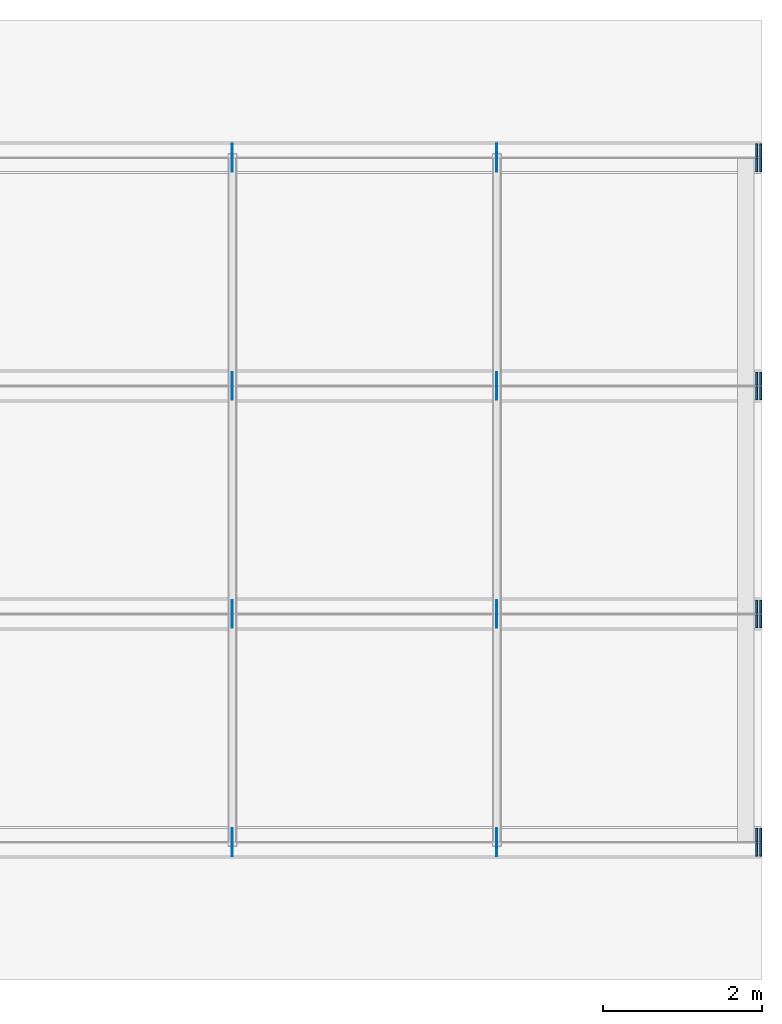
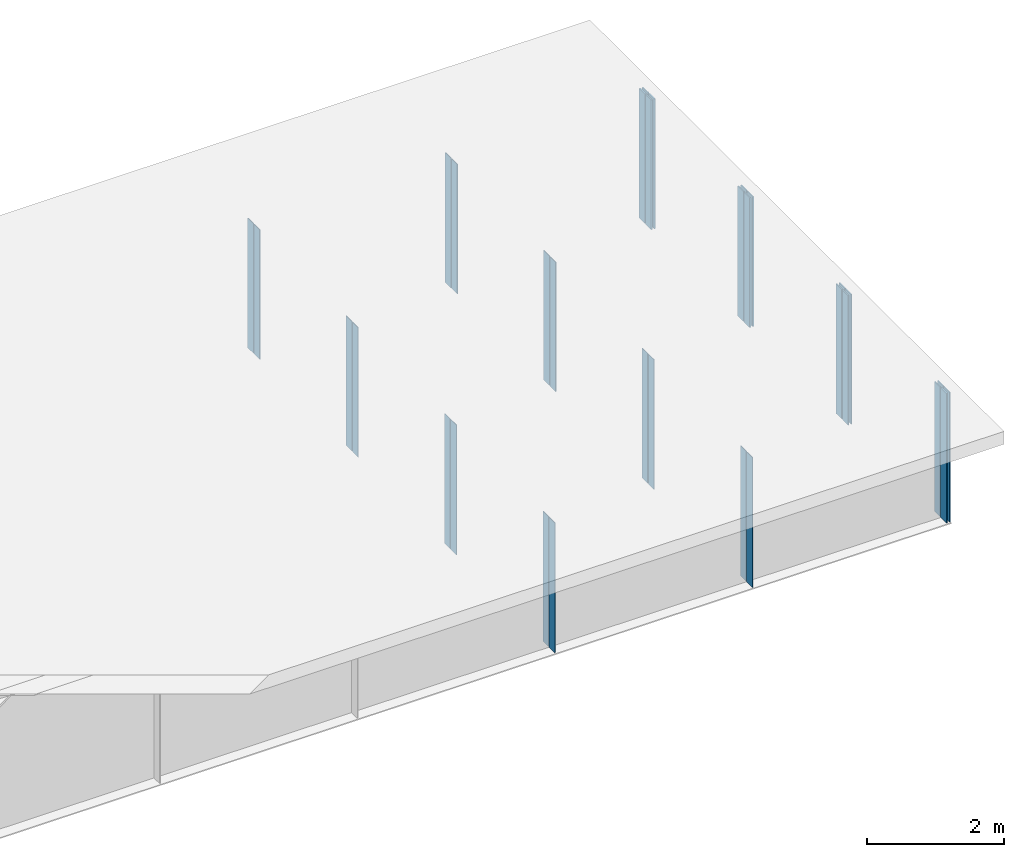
# One storey, part 15 of 15: 32 plates.
"""IFC4 building model written with IfcOpenShell, lengths in metres."""

from ifc_helpers import new_model, si_unit, frame, origin, origin_with_axes, origin_2d_with_axis, place, context, subcontext, project, spatial, rectangle, extrude, element, save


model = new_model("IFC4")

# Units and contexts
model_context = context("Model", 3, precision=1e-05, world=origin())
body_context = subcontext(model_context, "Body", "Model", "MODEL_VIEW")
ifc_project = project(units=[si_unit("LENGTHUNIT", "METRE"), si_unit("AREAUNIT", "SQUARE_METRE"), si_unit("VOLUMEUNIT", "CUBIC_METRE"), si_unit("PLANEANGLEUNIT", "RADIAN")], contexts=[model_context])

# Site, building, storey
site_placement = place(None, origin_with_axes())
site = spatial("IfcSite", under=ifc_project, at=site_placement, Name="Default Site")
building_placement = place(site_placement, origin_with_axes())
building = spatial("IfcBuilding", under=site, at=building_placement, Name="Bridge Structure")
storey_placement = place(building_placement, origin_with_axes())
storey = spatial("IfcBuildingStorey", under=building, at=storey_placement, Name="Superstructure")

# Plates
for number, where, z_axis, x_axis, name in (
    (1, (33.33, -4.221, -1.157), (0.0, 0.0, 1.0), (1.0, 0.0, 0.0), "Intermediate Stiffener 1"),
    (2, (33.33, -4.404, -1.157), (0.0, 0.0, 1.0), (1.0, 0.0, 0.0), "Intermediate Stiffener 1"),
    (3, (36.663000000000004, -4.221, -1.157), (0.0, 0.0, 1.0), (1.0, 0.0, 0.0), "Intermediate Stiffener 1"),
    (4, (36.663000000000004, -4.404, -1.157), (0.0, 0.0, 1.0), (1.0, 0.0, 0.0), "Intermediate Stiffener 1"),
):
    element("IfcPlate", number, at=place(storey_placement, frame(where, z_axis=z_axis, x_axis=x_axis)), inside=storey, Name=name, context=body_context, shape_type="SweptSolid", body=[
        extrude(rectangle(XDim=0.012, YDim=0.167, at=origin_2d_with_axis()), origin_with_axes(), (0.0, 0.0, 1.0), 2.314),
    ])
for number, where, z_axis, x_axis, name in (
    (5, (39.99, -4.221, -1.157), (0.0, 0.0, 1.0), (1.0, 0.0, 0.0), "End Stiffener 1"),
    (6, (39.99, -4.404, -1.157), (0.0, 0.0, 1.0), (1.0, 0.0, 0.0), "End Stiffener 1"),
    (7, (39.94, -4.221, -1.157), (0.0, 0.0, 1.0), (1.0, 0.0, 0.0), "End Stiffener 1"),
    (8, (39.94, -4.404, -1.157), (0.0, 0.0, 1.0), (1.0, 0.0, 0.0), "End Stiffener 1"),
):
    element("IfcPlate", number, at=place(storey_placement, frame(where, z_axis=z_axis, x_axis=x_axis)), inside=storey, Name=name, context=body_context, shape_type="SweptSolid", body=[
        extrude(rectangle(XDim=0.02, YDim=0.167, at=origin_2d_with_axis()), origin_with_axes(), (0.0, 0.0, 1.0), 2.314),
    ])
for number, where, z_axis, x_axis, name in (
    (9, (33.33, -1.346, -1.157), (0.0, 0.0, 1.0), (1.0, 0.0, 0.0), "Intermediate Stiffener 2"),
    (10, (33.33, -1.5290000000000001, -1.157), (0.0, 0.0, 1.0), (1.0, 0.0, 0.0), "Intermediate Stiffener 2"),
    (11, (36.663000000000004, -1.346, -1.157), (0.0, 0.0, 1.0), (1.0, 0.0, 0.0), "Intermediate Stiffener 2"),
    (12, (36.663000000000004, -1.5290000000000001, -1.157), (0.0, 0.0, 1.0), (1.0, 0.0, 0.0), "Intermediate Stiffener 2"),
):
    element("IfcPlate", number, at=place(storey_placement, frame(where, z_axis=z_axis, x_axis=x_axis)), inside=storey, Name=name, context=body_context, shape_type="SweptSolid", body=[
        extrude(rectangle(XDim=0.012, YDim=0.167, at=origin_2d_with_axis()), origin_with_axes(), (0.0, 0.0, 1.0), 2.314),
    ])
for number, where, z_axis, x_axis, name in (
    (13, (39.99, -1.346, -1.157), (0.0, 0.0, 1.0), (1.0, 0.0, 0.0), "End Stiffener 2"),
    (14, (39.99, -1.5290000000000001, -1.157), (0.0, 0.0, 1.0), (1.0, 0.0, 0.0), "End Stiffener 2"),
    (15, (39.94, -1.346, -1.157), (0.0, 0.0, 1.0), (1.0, 0.0, 0.0), "End Stiffener 2"),
    (16, (39.94, -1.5290000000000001, -1.157), (0.0, 0.0, 1.0), (1.0, 0.0, 0.0), "End Stiffener 2"),
):
    element("IfcPlate", number, at=place(storey_placement, frame(where, z_axis=z_axis, x_axis=x_axis)), inside=storey, Name=name, context=body_context, shape_type="SweptSolid", body=[
        extrude(rectangle(XDim=0.02, YDim=0.167, at=origin_2d_with_axis()), origin_with_axes(), (0.0, 0.0, 1.0), 2.314),
    ])
for number, where, z_axis, x_axis, name in (
    (17, (33.33, 1.5290000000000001, -1.157), (0.0, 0.0, 1.0), (1.0, 0.0, 0.0), "Intermediate Stiffener 3"),
    (18, (33.33, 1.346, -1.157), (0.0, 0.0, 1.0), (1.0, 0.0, 0.0), "Intermediate Stiffener 3"),
    (19, (36.663000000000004, 1.5290000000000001, -1.157), (0.0, 0.0, 1.0), (1.0, 0.0, 0.0), "Intermediate Stiffener 3"),
    (20, (36.663000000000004, 1.346, -1.157), (0.0, 0.0, 1.0), (1.0, 0.0, 0.0), "Intermediate Stiffener 3"),
):
    element("IfcPlate", number, at=place(storey_placement, frame(where, z_axis=z_axis, x_axis=x_axis)), inside=storey, Name=name, context=body_context, shape_type="SweptSolid", body=[
        extrude(rectangle(XDim=0.012, YDim=0.167, at=origin_2d_with_axis()), origin_with_axes(), (0.0, 0.0, 1.0), 2.314),
    ])
for number, where, z_axis, x_axis, name in (
    (21, (39.99, 1.5290000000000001, -1.157), (0.0, 0.0, 1.0), (1.0, 0.0, 0.0), "End Stiffener 3"),
    (22, (39.99, 1.346, -1.157), (0.0, 0.0, 1.0), (1.0, 0.0, 0.0), "End Stiffener 3"),
    (23, (39.94, 1.5290000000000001, -1.157), (0.0, 0.0, 1.0), (1.0, 0.0, 0.0), "End Stiffener 3"),
    (24, (39.94, 1.346, -1.157), (0.0, 0.0, 1.0), (1.0, 0.0, 0.0), "End Stiffener 3"),
):
    element("IfcPlate", number, at=place(storey_placement, frame(where, z_axis=z_axis, x_axis=x_axis)), inside=storey, Name=name, context=body_context, shape_type="SweptSolid", body=[
        extrude(rectangle(XDim=0.02, YDim=0.167, at=origin_2d_with_axis()), origin_with_axes(), (0.0, 0.0, 1.0), 2.314),
    ])
for number, where, z_axis, x_axis, name in (
    (25, (33.33, 4.404, -1.157), (0.0, 0.0, 1.0), (1.0, 0.0, 0.0), "Intermediate Stiffener 4"),
    (26, (33.33, 4.221, -1.157), (0.0, 0.0, 1.0), (1.0, 0.0, 0.0), "Intermediate Stiffener 4"),
    (27, (36.663000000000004, 4.404, -1.157), (0.0, 0.0, 1.0), (1.0, 0.0, 0.0), "Intermediate Stiffener 4"),
    (28, (36.663000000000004, 4.221, -1.157), (0.0, 0.0, 1.0), (1.0, 0.0, 0.0), "Intermediate Stiffener 4"),
):
    element("IfcPlate", number, at=place(storey_placement, frame(where, z_axis=z_axis, x_axis=x_axis)), inside=storey, Name=name, context=body_context, shape_type="SweptSolid", body=[
        extrude(rectangle(XDim=0.012, YDim=0.167, at=origin_2d_with_axis()), origin_with_axes(), (0.0, 0.0, 1.0), 2.314),
    ])
for number, where, z_axis, x_axis, name in (
    (29, (39.99, 4.404, -1.157), (0.0, 0.0, 1.0), (1.0, 0.0, 0.0), "End Stiffener 4"),
    (30, (39.99, 4.221, -1.157), (0.0, 0.0, 1.0), (1.0, 0.0, 0.0), "End Stiffener 4"),
    (31, (39.94, 4.404, -1.157), (0.0, 0.0, 1.0), (1.0, 0.0, 0.0), "End Stiffener 4"),
    (32, (39.94, 4.221, -1.157), (0.0, 0.0, 1.0), (1.0, 0.0, 0.0), "End Stiffener 4"),
):
    element("IfcPlate", number, at=place(storey_placement, frame(where, z_axis=z_axis, x_axis=x_axis)), inside=storey, Name=name, context=body_context, shape_type="SweptSolid", body=[
        extrude(rectangle(XDim=0.02, YDim=0.167, at=origin_2d_with_axis()), origin_with_axes(), (0.0, 0.0, 1.0), 2.314),
    ])

save(model, "model.ifc")
